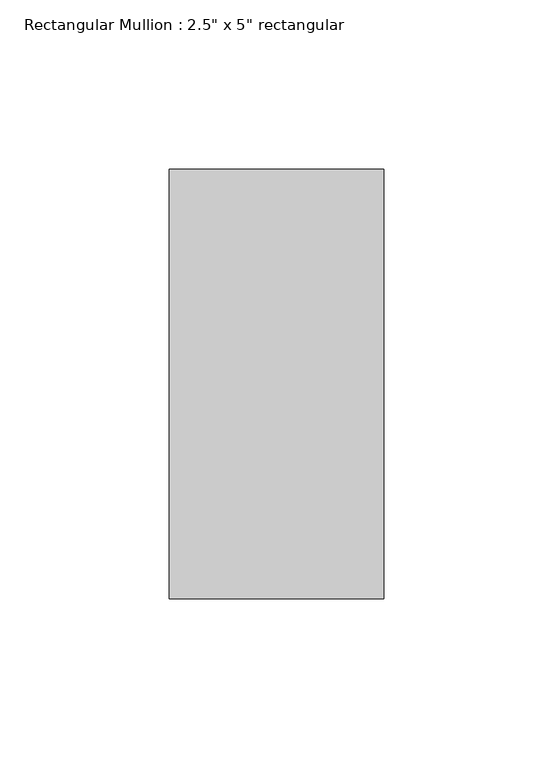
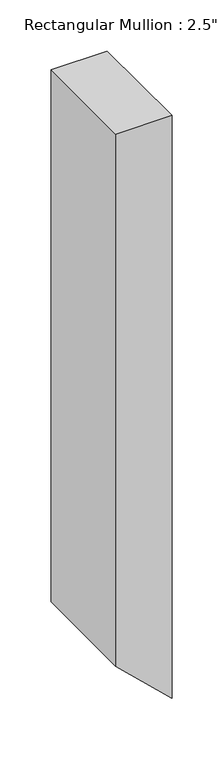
"""IFC4 building model written with IfcOpenShell, lengths in millimetres: member geometry."""

from ifc_helpers import new_model, si_unit, point, frame, frame_2d, origin, place, context, project, spatial, polyline, circle_curve, trimmed, segment, composite_curve, outline, extrude, source, transform, mapped, element, save


def member_a025723f(model_context):
    return source(origin(), model_context, "Body", "SweptSolid", [
        extrude(outline(composite_curve([segment(polyline([(0.0, 31.75), (0.0, -31.75), (-635.9553731, -31.75)]), True, "CONTINUOUS"), segment(trimmed(circle_curve(frame_2d((609.6, 1219.2)), 1765.3), [point((-635.9553731, -31.75))], [point((-696.6337415, 31.75))], False, "CARTESIAN"), True, "CONTINUOUS"), segment(polyline([(-696.6337415, 31.75), (0.0, 31.75)]), True, "CONTINUOUS")], self_intersect=False)), frame((0.0, -63.5, 0.0), z_axis=(0.0, 1.0, 0.0), x_axis=(0.0, 0.0, 1.0)), (0.0, 0.0, 1.0), 127.0),
    ])


if __name__ == "__main__":
    model = new_model("IFC4")
    model_context = context("Model", 3, world=origin())
    ifc_project = project(units=[si_unit("LENGTHUNIT", "METRE", prefix="MILLI")], contexts=[model_context])
    site = spatial("IfcSite", under=ifc_project)
    building = spatial("IfcBuilding", under=site)
    placement = place(None, origin())
    member_shape = member_a025723f(model_context)
    element("IfcMember", 1, ObjectType="Rectangular Mullion : 2.5\" x 5\" rectangular", at=placement, inside=building, context=model_context, shape_type="MappedRepresentation", body=[
        mapped(member_shape, transform((0.0, 0.0, 0.0), x_axis=(1.0, 0.0, 0.0), y_axis=(0.0, 1.0, 0.0), z_axis=(0.0, 0.0, 1.0))),
    ])
    save(model, "model.ifc")
